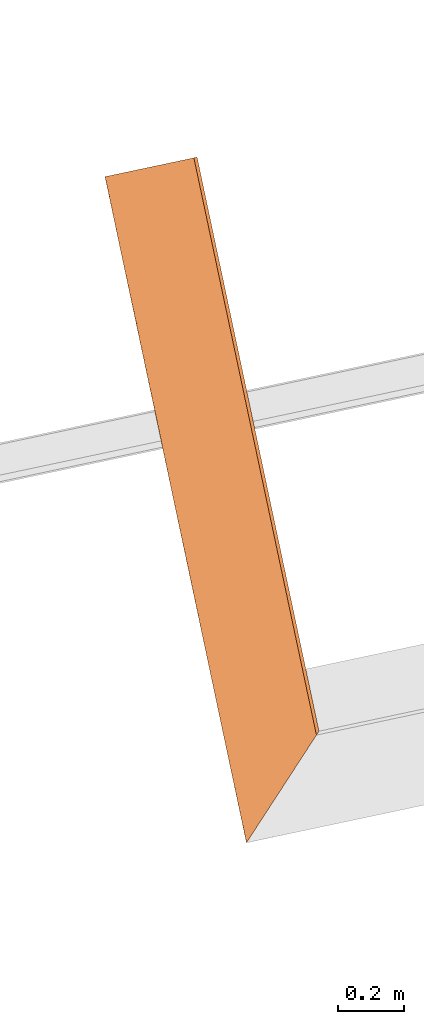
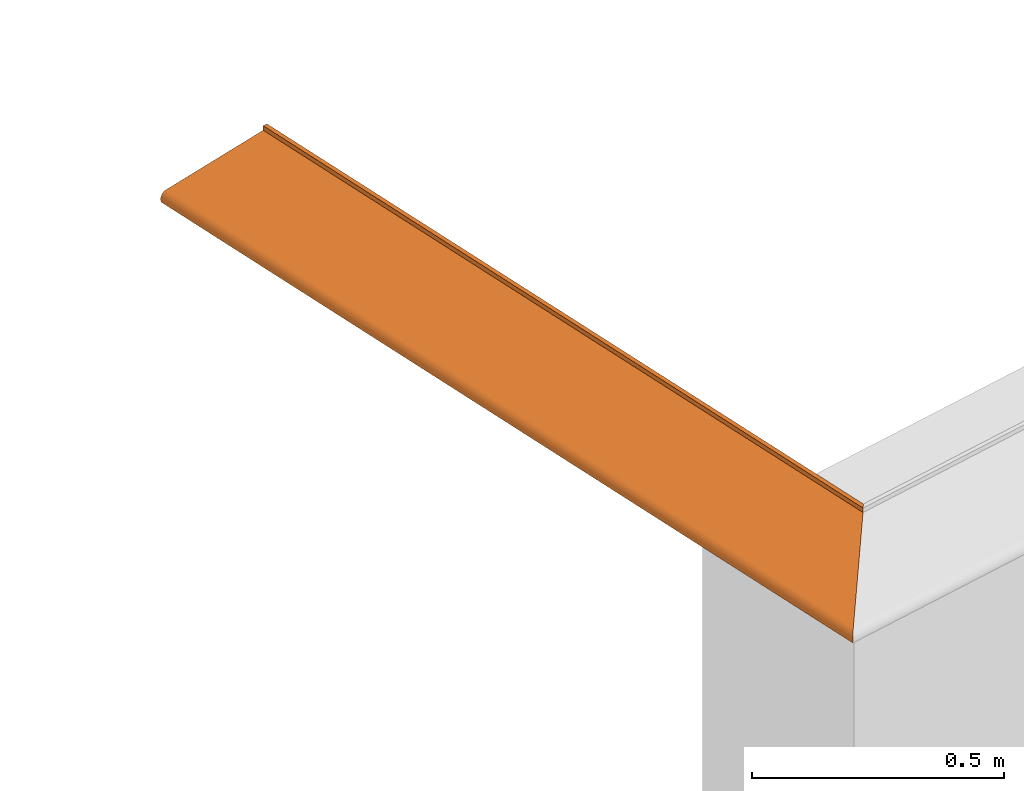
# One storey, part 17 of 22: 1 proxy.
"""IFC2X3 building model written with IfcOpenShell, lengths in centimetres."""

import ifcopenshell
import ifcopenshell.guid

model = None  # the IFC model being written
_history = None  # IfcOwnerHistory: only IFC2X3 demands one
_inside = {}  # id of a spatial element -> (the spatial element, [elements in it])
_under = {}  # id of a project, library or spatial element -> (it, [spatial elements below it])
_declared = {}  # id of a project -> (the project, [libraries it declares])
_typed = {}  # id of a type object -> (the type object, [elements of that type])
_made_of = {}  # id of a material, layer set ... -> (it, [elements and type objects made of it])


def new_model(schema):
    """Start an empty IFC model of exactly this schema.

    Asked for "IFC4X3", IfcOpenShell would pick the latest addendum, in which some entities
    have other attributes; the version numbers below select the first issue.
    IFC2X3 requires an IfcOwnerHistory on every rooted entity: one is made here for all.
    """
    global model, _history
    if schema == "IFC4X3":
        model = ifcopenshell.file(schema_version=(4, 3, 0, 0))
    else:
        model = ifcopenshell.file(schema=schema)
    _inside.clear()
    _under.clear()
    _declared.clear()
    _typed.clear()
    _made_of.clear()
    _history = None
    if model.schema == "IFC2X3":
        org = make("IfcOrganization", Name="unknown")
        user = make(
            "IfcPersonAndOrganization",
            ThePerson=make("IfcPerson", FamilyName="unknown"),
            TheOrganization=org,
        )
        app = make(
            "IfcApplication",
            ApplicationDeveloper=org,
            Version="unknown",
            ApplicationFullName="unknown",
            ApplicationIdentifier="unknown",
        )
        _history = make(
            "IfcOwnerHistory",
            OwningUser=user,
            OwningApplication=app,
            ChangeAction="ADDED",
            CreationDate=0,
        )
    return model


def make(cls, **values):
    """One entity of the class cls with the attributes given. An attribute that is None is left unset."""
    return model.create_entity(
        cls, **{name: value for name, value in values.items() if value is not None}
    )


def entity(cls, *values):
    """Any entity or typed value of the class cls, its attributes in the order of the schema. None: left unset."""
    e = model.create_entity(cls)
    for i, value in enumerate(values):
        if value is not None:
            e[i] = value
    return e


def rooted(cls, **values):
    """An entity with a GlobalId (a new one), such as an element, a storey or a relation."""
    return make(cls, GlobalId=ifcopenshell.guid.new(), OwnerHistory=_history, **values)


def si_unit(unit_type, name, prefix=None):
    """IfcSIUnit, for example si_unit("LENGTHUNIT", "METRE", prefix="MILLI")."""
    return make("IfcSIUnit", UnitType=unit_type, Prefix=prefix, Name=name)


def converted_unit(unit_type, name, factor, base, dimensions=None, offset=None):
    """IfcConversionBasedUnit, such as the inch: factor (a typed value) times the base unit."""
    return make(
        "IfcConversionBasedUnit"
        if offset is None
        else "IfcConversionBasedUnitWithOffset",
        ConversionOffset=offset,
        Dimensions=None
        if dimensions is None
        else entity("IfcDimensionalExponents", *dimensions),
        UnitType=unit_type,
        Name=name,
        ConversionFactor=make(
            "IfcMeasureWithUnit", ValueComponent=factor, UnitComponent=base
        ),
    )


def derived_unit(unit_type, elements):
    """IfcDerivedUnit: a product of units, each with its exponent."""
    return make(
        "IfcDerivedUnit",
        Elements=[
            make("IfcDerivedUnitElement", Unit=unit, Exponent=power)
            for unit, power in elements
        ],
        UnitType=unit_type,
    )


def assignment(units):
    """IfcUnitAssignment: the units of a project."""
    return None if units is None else make("IfcUnitAssignment", Units=units)


def point(xyz):
    """IfcCartesianPoint."""
    return None if xyz is None else make("IfcCartesianPoint", Coordinates=xyz)


def direction(xyz):
    """IfcDirection."""
    return None if xyz is None else make("IfcDirection", DirectionRatios=xyz)


def frame(location, z_axis=None, x_axis=None):
    """IfcAxis2Placement3D, a coordinate frame: its origin and axes. An axis left out is left unset."""
    return make(
        "IfcAxis2Placement3D",
        Location=point(location),
        Axis=direction(z_axis),
        RefDirection=direction(x_axis),
    )


def origin():
    """The frame at (0, 0, 0) with its axes left unset."""
    return frame((0.0, 0.0, 0.0))


def place(relative_to, where):
    """IfcLocalPlacement: puts the frame where relative to a parent placement (None: the world)."""
    return make(
        "IfcLocalPlacement", PlacementRelTo=relative_to, RelativePlacement=where
    )


def context(
    kind, dimensions, precision=None, world=None, true_north=None, identifier=None
):
    """IfcGeometricRepresentationContext, for example the 3D "Model" context."""
    return make(
        "IfcGeometricRepresentationContext",
        ContextIdentifier=identifier,
        ContextType=kind,
        CoordinateSpaceDimension=dimensions,
        Precision=precision,
        WorldCoordinateSystem=world,
        TrueNorth=true_north,
    )


def subcontext(parent, identifier, kind, view, scale=None):
    """IfcGeometricRepresentationSubContext, for example "Body" below "Model"."""
    return make(
        "IfcGeometricRepresentationSubContext",
        ContextIdentifier=identifier,
        ContextType=kind,
        ParentContext=parent,
        TargetScale=scale,
        TargetView=view,
    )


def project(units=None, contexts=None):
    """IfcProject with its units and contexts."""
    return rooted(
        "IfcProject",
        Name="project",
        RepresentationContexts=contexts,
        UnitsInContext=assignment(units),
    )


def spatial(cls, under=None, at=None, **own):
    """A site, building, storey or space (cls), placed at a placement, below another one or the project."""
    s = rooted(cls, ObjectPlacement=at, **own)
    if under is not None:
        _under.setdefault(under.id(), (under, []))[1].append(s)
    return s


def faces_of(points, faces, orient=None, outer=None):
    """IfcFace entities. A face is a list of loops; a loop is a list of indices into points, from 0.

    orient and outer hold one flag for each loop. By default every Orientation is true, the
    first loop of a face is its IfcFaceOuterBound and the others are IfcFaceBound.
    """
    made = []
    for i, loops in enumerate(faces):
        bounds = []
        for j, loop in enumerate(loops):
            is_outer = j == 0 if outer is None else outer[i][j]
            bounds.append(
                make(
                    "IfcFaceOuterBound" if is_outer else "IfcFaceBound",
                    Bound=make("IfcPolyLoop", Polygon=[points[k] for k in loop]),
                    Orientation=True if orient is None else orient[i][j],
                )
            )
        made.append(make("IfcFace", Bounds=bounds))
    return made


def faceted_brep(points, faces, orient=None, outer=None, voids=None):
    """IfcFacetedBrep: a solid bounded by flat faces; with voids (closed shells), ...WithVoids."""
    shared = [point(p) for p in points]
    hull = make("IfcClosedShell", CfsFaces=faces_of(shared, faces, orient, outer))
    if voids is None:
        return make("IfcFacetedBrep", Outer=hull)
    return make(
        "IfcFacetedBrepWithVoids",
        Outer=hull,
        Voids=[
            make(cls, CfsFaces=faces_of(shared, fs, o, b)) for cls, fs, o, b in voids
        ],
    )


def shape(context_of_items, identifier, shape_type, items):
    """IfcShapeRepresentation: the items that make up one representation, for example the "Body"."""
    return make(
        "IfcShapeRepresentation",
        ContextOfItems=context_of_items,
        RepresentationIdentifier=identifier,
        RepresentationType=shape_type,
        Items=items,
    )


def made_of(thing, what):
    """Note that an element or type object is made of a material, layer set ...; save() writes the relation."""
    if what is not None:
        _made_of.setdefault(what.id(), (what, []))[1].append(thing)
    return thing


def type_object(cls, material=None, **own):
    """A type object (cls), such as IfcWallType, which elements share."""
    return made_of(rooted(cls, **own), material)


def element(
    cls,
    number,
    at=None,
    inside=None,
    cuts=None,
    type_object=None,
    material=None,
    context=None,
    identifier="Body",
    shape_type=None,
    held_by="IfcProductDefinitionShape",
    body=None,
    shapes=None,
    **own,
):
    """One element of the class cls, such as IfcWall. Its Tag is "e" and its number.

    at: its placement. inside: the storey or other place that contains it. cuts: it is an
    opening in that element (IfcRelVoidsElement). A single representation is given by context,
    identifier, shape_type and body (its items); several are given by shapes. held_by: the class
    of the entity that holds the representations. save() writes the other relations.
    """
    e = rooted(cls, Tag="e%d" % number, ObjectPlacement=at, **own)
    if body is not None:
        shapes = [shape(context, identifier, shape_type, body)]
    if shapes is not None:
        e.Representation = make(held_by, Representations=shapes)
    if inside is not None:
        _inside.setdefault(inside.id(), (inside, []))[1].append(e)
    if cuts is not None:
        rooted(
            "IfcRelVoidsElement", RelatingBuildingElement=cuts, RelatedOpeningElement=e
        )
    if type_object is not None:
        _typed.setdefault(type_object.id(), (type_object, []))[1].append(e)
    return made_of(e, material)


def aggregate(whole, parts):
    """IfcRelAggregates: a whole, such as a stair, and the parts it consists of."""
    return rooted("IfcRelAggregates", RelatingObject=whole, RelatedObjects=parts)


def save(model, path):
    """Write the relations noted so far, then the file.

    IfcRelAggregates (storeys below a building ...), IfcRelContainedInSpatialStructure (elements
    in a storey), IfcRelDefinesByType, IfcRelAssociatesMaterial and IfcRelDeclares: one each for
    every whole, place, type object, material and project.
    """
    for whole, parts in _under.values():
        aggregate(whole, parts)
    for where, things in _inside.values():
        rooted(
            "IfcRelContainedInSpatialStructure",
            RelatedElements=things,
            RelatingStructure=where,
        )
    for kind, things in _typed.values():
        rooted("IfcRelDefinesByType", RelatedObjects=things, RelatingType=kind)
    for what, things in _made_of.values():
        rooted("IfcRelAssociatesMaterial", RelatedObjects=things, RelatingMaterial=what)
    for by, libraries in _declared.values():
        rooted("IfcRelDeclares", RelatingContext=by, RelatedDefinitions=libraries)
    model.write(path)


model = new_model("IFC2X3")

# Units and contexts
model_context = context("Model", 3, precision=0.001, world=origin(), true_north=direction((6.12303176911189e-17, 1.0)))
body_context = subcontext(model_context, "Body", "Model", "MODEL_VIEW")
ifc_project = project(units=[si_unit("LENGTHUNIT", "METRE", prefix="CENTI"), si_unit("AREAUNIT", "SQUARE_METRE"), si_unit("VOLUMEUNIT", "CUBIC_METRE"), converted_unit("PLANEANGLEUNIT", "DEGREE", entity("IfcRatioMeasure", 0.0174532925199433), si_unit("PLANEANGLEUNIT", "RADIAN"), dimensions=[0, 0, 0, 0, 0, 0, 0]), si_unit("MASSUNIT", "GRAM", prefix="KILO"), derived_unit("MASSDENSITYUNIT", [(si_unit("MASSUNIT", "GRAM", prefix="KILO"), 1), (si_unit("LENGTHUNIT", "METRE"), -3)]), derived_unit("IONCONCENTRATIONUNIT", [(si_unit("MASSUNIT", "GRAM", prefix="KILO"), 1), (si_unit("LENGTHUNIT", "METRE"), -3)]), derived_unit("MOMENTOFINERTIAUNIT", [(si_unit("LENGTHUNIT", "METRE"), 4)]), si_unit("TIMEUNIT", "SECOND"), si_unit("FREQUENCYUNIT", "HERTZ"), si_unit("THERMODYNAMICTEMPERATUREUNIT", "DEGREE_CELSIUS"), derived_unit("THERMALTRANSMITTANCEUNIT", [(si_unit("MASSUNIT", "GRAM", prefix="KILO"), 1), (si_unit("THERMODYNAMICTEMPERATUREUNIT", "KELVIN"), -1), (si_unit("TIMEUNIT", "SECOND"), -3)]), derived_unit("THERMALCONDUCTANCEUNIT", [(si_unit("MASSUNIT", "GRAM", prefix="KILO"), 1), (si_unit("THERMODYNAMICTEMPERATUREUNIT", "KELVIN"), -1), (si_unit("TIMEUNIT", "SECOND"), -3), (si_unit("LENGTHUNIT", "METRE"), 1)]), derived_unit("VOLUMETRICFLOWRATEUNIT", [(si_unit("LENGTHUNIT", "METRE"), 3), (si_unit("TIMEUNIT", "SECOND"), -1)]), derived_unit("MASSFLOWRATEUNIT", [(si_unit("MASSUNIT", "GRAM", prefix="KILO"), 1), (si_unit("TIMEUNIT", "SECOND"), -1)]), derived_unit("ROTATIONALFREQUENCYUNIT", [(si_unit("TIMEUNIT", "SECOND"), -1)]), si_unit("ELECTRICCURRENTUNIT", "AMPERE"), si_unit("ELECTRICVOLTAGEUNIT", "VOLT"), si_unit("POWERUNIT", "WATT"), si_unit("FORCEUNIT", "NEWTON", prefix="KILO"), si_unit("ILLUMINANCEUNIT", "LUX"), si_unit("LUMINOUSFLUXUNIT", "LUMEN"), si_unit("LUMINOUSINTENSITYUNIT", "CANDELA"), derived_unit("USERDEFINED", [(si_unit("MASSUNIT", "GRAM", prefix="KILO"), -1), (si_unit("LENGTHUNIT", "METRE"), -2), (si_unit("TIMEUNIT", "SECOND"), 3), (si_unit("LUMINOUSFLUXUNIT", "LUMEN"), 1)]), derived_unit("USERDEFINED", [(si_unit("MASSUNIT", "GRAM", prefix="KILO"), 1), (si_unit("TIMEUNIT", "SECOND"), -3), (si_unit("LENGTHUNIT", "METRE"), 3), (si_unit("ELECTRICCURRENTUNIT", "AMPERE"), -2)]), derived_unit("SOUNDPOWERUNIT", [(si_unit("MASSUNIT", "GRAM", prefix="KILO"), 1), (si_unit("TIMEUNIT", "SECOND"), -3), (si_unit("LENGTHUNIT", "METRE"), 2)]), derived_unit("SOUNDPRESSUREUNIT", [(si_unit("MASSUNIT", "GRAM", prefix="KILO"), 1), (si_unit("LENGTHUNIT", "METRE"), -1), (si_unit("TIMEUNIT", "SECOND"), -2)]), derived_unit("LINEARVELOCITYUNIT", [(si_unit("LENGTHUNIT", "METRE"), 1), (si_unit("TIMEUNIT", "SECOND"), -1)]), si_unit("PRESSUREUNIT", "PASCAL"), derived_unit("USERDEFINED", [(si_unit("MASSUNIT", "GRAM", prefix="KILO"), 1), (si_unit("LENGTHUNIT", "METRE"), -2), (si_unit("TIMEUNIT", "SECOND"), -2)]), derived_unit("LINEARFORCEUNIT", [(si_unit("MASSUNIT", "GRAM", prefix="KILO"), 1), (si_unit("TIMEUNIT", "SECOND"), -2)]), derived_unit("PLANARFORCEUNIT", [(si_unit("MASSUNIT", "GRAM", prefix="KILO"), 1), (si_unit("LENGTHUNIT", "METRE"), -1), (si_unit("TIMEUNIT", "SECOND"), -2)]), derived_unit("SPECIFICHEATCAPACITYUNIT", [(si_unit("THERMODYNAMICTEMPERATUREUNIT", "KELVIN"), -1), (si_unit("LENGTHUNIT", "METRE"), 2), (si_unit("TIMEUNIT", "SECOND"), -2)]), derived_unit("HEATINGVALUEUNIT", [(si_unit("LENGTHUNIT", "METRE"), 2), (si_unit("TIMEUNIT", "SECOND"), -2)]), derived_unit("VAPORPERMEABILITYUNIT", [(si_unit("LENGTHUNIT", "METRE"), -1), (si_unit("TIMEUNIT", "SECOND"), 1)]), derived_unit("DYNAMICVISCOSITYUNIT", [(si_unit("MASSUNIT", "GRAM", prefix="KILO"), 1), (si_unit("TIMEUNIT", "SECOND"), -1), (si_unit("LENGTHUNIT", "METRE"), -1)]), derived_unit("THERMALEXPANSIONCOEFFICIENTUNIT", [(si_unit("THERMODYNAMICTEMPERATUREUNIT", "KELVIN"), -1)]), derived_unit("MODULUSOFELASTICITYUNIT", [(si_unit("MASSUNIT", "GRAM", prefix="KILO"), 1), (si_unit("LENGTHUNIT", "METRE"), -1), (si_unit("TIMEUNIT", "SECOND"), -2)]), derived_unit("ISOTHERMALMOISTURECAPACITYUNIT", [(si_unit("LENGTHUNIT", "METRE"), 3), (si_unit("MASSUNIT", "GRAM", prefix="KILO"), -1)]), derived_unit("MOISTUREDIFFUSIVITYUNIT", [(si_unit("TIMEUNIT", "SECOND"), -1), (si_unit("LENGTHUNIT", "METRE"), 2)])], contexts=[model_context])

# Site, building, storey
site_placement = place(None, frame((14083.8920177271, -6853.25409548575, 6900.0), z_axis=(0.0, 0.0, 1.0), x_axis=(0.978188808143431, 0.207717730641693, 0.0)))
site = spatial("IfcSite", under=ifc_project, at=site_placement, Name="Surface", CompositionType="ELEMENT")
building_placement = place(site_placement, origin())
building = spatial("IfcBuilding", under=site, at=building_placement, CompositionType="ELEMENT")
storey_placement = place(building_placement, frame((0.0, 0.0, -17.0)))
storey = spatial("IfcBuildingStorey", under=building, at=storey_placement, Name="Rez de chaussée (SD)", CompositionType="ELEMENT", Elevation=-16.9999999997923)

# Proxy
building_element_proxy_type = type_object("IfcBuildingElementProxyType", Name="5100717", PredefinedType="NOTDEFINED")
proxy_placement = place(storey_placement, frame((-6825.74402632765, 14558.8435696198, 75.1437635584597)))
element("IfcBuildingElementProxy", 1, at=proxy_placement, inside=storey, type_object=building_element_proxy_type, Name="5100717", context=body_context, shape_type="Brep", body=[
    faceted_brep([(0.303403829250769, 0.303403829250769, 2.43053632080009), (0.177753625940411, 0.177753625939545, 2.03202478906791), (0.15952722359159, 0.15952722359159, 1.61457154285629), (0.249966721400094, 0.249966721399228, 1.20662533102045), (0.442908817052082, 0.442908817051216, 0.835987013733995), (0.725204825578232, 0.725204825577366, 0.527914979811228), (1.07761674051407, 1.07761674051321, 0.303403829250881), (1.47612827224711, 1.47612827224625, 0.177753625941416), (1.89358151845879, 1.89358151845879, 0.159527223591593), (1.80642577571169, 1.80642577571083, 1.15572192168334), (1.64977644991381, 1.64977644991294, 1.16256137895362), (1.5002350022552, 1.50023500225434, 1.20971161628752), (1.3679924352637, 1.36799243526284, 1.2939594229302), (1.26206086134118, 1.26206086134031, 1.40956345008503), (1.18965934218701, 1.18965934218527, 1.54864547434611), (1.15572192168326, 1.15572192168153, 1.70172728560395), (1.16256137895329, 1.16256137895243, 1.85837661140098), (1.20971161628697, 1.2097116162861, 2.00791805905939), (1.29395942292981, 1.29395942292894, 2.14016062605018), (1.40956345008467, 1.40956345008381, 2.24609219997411), (1.5486454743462, 1.54864547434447, 2.31849371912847), (1.70172728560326, 1.7017272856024, 2.35243113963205), (28.598984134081, 28.5989841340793, 4.70563619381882), (28.598984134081, 28.5989841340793, 6.70563619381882), (27.5989841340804, 27.5989841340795, 6.70563619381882), (27.5989841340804, 27.5989841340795, 5.62196736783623), (1.6145715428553, 1.61457154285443, 3.34862583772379), (1.20662533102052, 1.20662533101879, 3.25818633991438), (0.835987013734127, 0.835987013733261, 3.06524424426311), (0.527914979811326, 0.527914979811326, 2.78294823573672), (0.725204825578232, 205.828908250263, 0.527914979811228), (0.442908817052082, 205.828908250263, 0.835987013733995), (0.249966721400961, 205.828908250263, 1.20662533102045), (0.15952722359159, 205.828908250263, 1.61457154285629), (0.177753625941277, 205.828908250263, 2.03202478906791), (0.303403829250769, 205.828908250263, 2.43053632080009), (0.527914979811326, 205.828908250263, 2.78294823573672), (0.835987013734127, 205.828908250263, 3.06524424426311), (1.20662533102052, 205.828908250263, 3.25818633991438), (1.6145715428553, 205.828908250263, 3.34862583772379), (27.5989841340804, 205.828908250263, 5.62196736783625), (27.5989841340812, 205.828908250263, 6.70563619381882), (28.598984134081, 205.828908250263, 6.70563619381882), (28.598984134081, 205.828908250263, 4.70563619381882), (1.70172728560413, 205.828908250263, 2.35243113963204), (1.5486454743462, 205.828908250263, 2.31849371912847), (1.40956345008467, 205.828908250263, 2.24609219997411), (1.29395942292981, 205.828908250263, 2.14016062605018), (1.20971161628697, 205.828908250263, 2.00791805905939), (1.16256137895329, 205.828908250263, 1.85837661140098), (1.15572192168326, 205.828908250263, 1.70172728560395), (1.18965934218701, 205.828908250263, 1.54864547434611), (1.26206086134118, 205.828908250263, 1.40956345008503), (1.36799243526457, 205.828908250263, 1.2939594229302), (1.50023500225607, 205.828908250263, 1.20971161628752), (1.64977644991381, 205.828908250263, 1.16256137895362), (1.80642577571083, 205.828908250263, 1.15572192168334), (1.89358151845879, 205.828908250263, 0.159527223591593), (1.47612827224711, 205.828908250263, 0.177753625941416), (1.07761674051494, 205.828908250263, 0.303403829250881), (1.70172728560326, 10.2591841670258, 2.352431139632), (1.70172728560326, 18.5036985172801, 2.352431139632), (1.70172728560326, 26.904684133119, 2.35243113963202), (1.70172728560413, 35.3056697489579, 2.35243113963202), (1.70172728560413, 43.706655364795, 2.35243113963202), (1.70172728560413, 52.1076409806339, 2.35243113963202), (1.70172728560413, 60.5086265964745, 2.35243113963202), (1.70172728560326, 68.9096122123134, 2.35243113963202), (1.70172728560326, 77.4670690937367, 2.35243113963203), (1.70172728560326, 86.0245259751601, 2.35243113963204), (1.70172728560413, 94.5819828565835, 2.35243113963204), (1.70172728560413, 103.139435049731, 2.35243113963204), (1.70172728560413, 111.696887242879, 2.35243113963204), (1.70172728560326, 120.254344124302, 2.35243113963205), (1.70172728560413, 128.811801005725, 2.35243113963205), (1.70172728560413, 137.369257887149, 2.35243113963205), (1.70172728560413, 145.926714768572, 2.35243113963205), (1.70172728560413, 154.484171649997, 2.35243113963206), (1.70172728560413, 163.04162853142, 2.35243113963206), (1.70172728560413, 171.599085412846, 2.35243113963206), (1.701727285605, 180.156542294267, 2.35243113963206), (1.70172728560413, 188.713999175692, 2.35243113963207), (1.70172728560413, 197.271456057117, 2.35243113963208), (1.61457154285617, 177.889780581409, 3.34862583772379), (1.61457154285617, 149.950520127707, 3.34862583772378), (1.61457154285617, 135.980889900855, 3.34862583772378), (1.6145715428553, 122.011259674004, 3.34862583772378), (1.6145715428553, 94.0719992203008, 3.34862583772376), (1.61457154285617, 70.9576091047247, 3.34862583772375), (1.61457154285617, 47.8432189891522, 3.34862583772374), (1.61457154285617, 24.7288288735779, 3.34862583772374), (0.672699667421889, 182.92118623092, 2.93419229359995), (0.404110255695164, 186.793562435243, 2.6140998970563), (1.27275473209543, 169.601477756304, 0.227518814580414), (1.58530274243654, 172.642538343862, 0.162359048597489), (1.49362615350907, 152.435528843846, 0.174768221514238), (0.20101520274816, 51.9857090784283, 1.36671410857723), (0.191750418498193, 76.9880739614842, 1.40595837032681), (0.365135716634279, 58.7608583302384, 0.958531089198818), (0.154959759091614, 186.936376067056, 1.82389547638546), (1.31146795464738, 172.642538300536, 3.29230498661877), (1.3437121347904, 189.256705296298, 3.30121912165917), (0.487276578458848, 166.362141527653, 2.73247676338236), (0.404110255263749, 145.930720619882, 2.61409989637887), (0.731319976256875, 148.216260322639, 2.98534342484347), (0.334291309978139, 186.936376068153, 1.0149831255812), (0.340196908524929, 164.242604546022, 1.00374757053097), (0.191377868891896, 183.841431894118, 1.40763457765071), (0.191038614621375, 19.4018335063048, 1.40916841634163), (0.154942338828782, 24.4550501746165, 1.82349533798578), (1.01048520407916, 16.1546357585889, 3.17151121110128), (0.668195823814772, 22.6355221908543, 2.93004941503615), (0.402456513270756, 15.5901183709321, 2.61149851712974), (1.01498312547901, 189.313195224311, 3.17386175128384), (1.01498312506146, 169.60147769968, 3.17386175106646), (1.2779212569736, 25.6981644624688, 3.2822536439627), (1.00497640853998, 34.7234455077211, 3.16860759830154), (1.26472225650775, 24.6541680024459, 0.230074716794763), (0.942996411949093, 126.319645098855, 3.13400340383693), (0.745579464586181, 105.394687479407, 2.9970499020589), (1.17349945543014, 104.439359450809, 3.24571301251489), (1.27275473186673, 189.313195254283, 0.227518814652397), (0.877950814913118, 159.563891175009, 0.414504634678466), (0.573960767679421, 173.183077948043, 0.672699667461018), (0.894053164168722, 184.186032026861, 0.40411025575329), (0.227518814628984, 191.166987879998, 2.2353983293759), (0.191377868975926, 159.362213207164, 1.40763457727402), (0.289741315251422, 138.407000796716, 1.10772406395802), (0.226863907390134, 19.4386523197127, 2.23331628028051), (1.61860498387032, 189.256705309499, 0.159179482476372), (0.998741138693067, 115.310194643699, 0.342865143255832), (0.640730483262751, 116.114245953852, 0.604072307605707), (0.859181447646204, 131.12846694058, 0.426969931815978), (0.573960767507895, 191.279313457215, 0.672699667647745), (0.181540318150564, 81.5362696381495, 2.0527050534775), (0.153642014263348, 79.4114447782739, 1.72841541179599), (0.162647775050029, 66.5351258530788, 1.92555145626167), (0.569941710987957, 23.9220232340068, 0.677102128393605), (1.22333896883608, 152.435528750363, 3.26416486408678), (1.89358151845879, 177.890350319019, 0.159527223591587), (0.883968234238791, 38.4918058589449, 0.410588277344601), (0.566183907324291, 47.0651043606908, 0.681248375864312), (0.339656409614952, 80.9797745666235, 1.00476694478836), (0.56189490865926, 70.9383369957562, 0.686016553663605), (0.332903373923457, 17.5954846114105, 1.01765546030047), (0.225899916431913, 42.4016283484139, 2.23023340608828), (0.287236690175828, 65.3098654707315, 2.39472465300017), (1.06847369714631, 144.865821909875, 0.307702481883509), (1.42899160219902, 80.8501472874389, 0.186795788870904), (1.89358151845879, 75.9226869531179, 0.15952722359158), (1.61007284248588, 55.4045503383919, 0.159927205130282), (0.577194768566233, 126.595351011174, 2.83897212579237), (1.29785051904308, 88.1876404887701, 3.28832128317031), (0.317598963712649, 160.798423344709, 2.46017945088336), (0.202864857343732, 155.802512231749, 2.14878082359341), (0.256292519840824, 140.469800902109, 2.31860482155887), (0.889417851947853, 18.1565469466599, 0.407074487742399), (1.58920554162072, 40.6739204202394, 0.161950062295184), (1.89358151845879, 57.7728312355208, 0.159527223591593), (1.89358151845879, 29.8335620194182, 0.159527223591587), (1.58637294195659, 23.7380030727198, 0.162245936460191), (0.43813656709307, 53.9384822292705, 2.66531258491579), (0.660003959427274, 62.766205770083, 2.92243193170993), (0.437421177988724, 73.5155441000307, 2.66427860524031), (1.28383630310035, 43.555403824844, 3.28408413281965), (0.648377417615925, 42.6849867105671, 2.911434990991), (0.227518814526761, 172.980318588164, 2.23539832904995), (0.155508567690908, 164.285758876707, 1.83549889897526), (1.22848597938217, 39.7471035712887, 0.242189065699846), (0.166545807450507, 36.274263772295, 1.54963745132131), (1.04613912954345, 51.0811627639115, 0.318502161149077), (0.722818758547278, 165.733224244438, 2.97823197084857), (0.331273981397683, 37.9255767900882, 1.02080847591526), (1.27740574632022, 128.996042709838, 3.28209292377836), (0.985183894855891, 54.8111044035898, 3.15794733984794), (0.400436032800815, 34.1924632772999, 2.60830515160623), (0.798833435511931, 56.3817923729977, 0.469724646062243), (1.18496413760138, 100.901820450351, 0.258028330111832), (1.21727551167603, 128.325098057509, 0.246132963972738), (1.89358151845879, 149.951081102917, 0.15952722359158), (1.89358151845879, 135.981446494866, 0.159527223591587), (1.49172996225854, 108.041624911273, 0.175082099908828), (1.56399940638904, 128.99604277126, 0.164762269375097), (1.89358151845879, 122.011811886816, 0.15952722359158), (0.16721300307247, 125.532094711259, 1.5445215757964), (0.158892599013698, 144.04588493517, 1.62202593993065), (0.313799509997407, 123.573992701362, 2.45239682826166), (0.234375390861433, 103.57012172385, 2.25662760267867), (0.429291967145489, 102.373329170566, 2.65240553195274), (0.154923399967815, 51.0184221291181, 1.8230576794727), (0.619495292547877, 155.996358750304, 0.625017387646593), (0.310424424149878, 85.7623623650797, 2.44539247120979), (0.954386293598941, 154.63701391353, 3.14063509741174), (0.606407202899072, 85.0070897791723, 2.86982930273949), (0.178102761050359, 120.129612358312, 2.03399761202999), (0.154886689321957, 102.994217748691, 1.82220131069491), (0.92180332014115, 87.6315309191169, 3.12132575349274), (1.16639369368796, 72.1043772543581, 3.2429277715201), (0.165247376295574, 93.8908392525, 1.55998621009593), (0.286362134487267, 111.901631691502, 1.11543454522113), (0.185201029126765, 108.850636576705, 1.43677731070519), (0.877986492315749, 98.9307920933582, 0.414481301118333), (0.549148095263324, 93.9187915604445, 0.700417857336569), (0.884978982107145, 70.0804229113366, 3.09821885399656), (1.89358151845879, 94.072542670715, 0.159527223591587), (1.05240139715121, 86.9353211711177, 0.315430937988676), (1.3287919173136, 53.9784066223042, 0.210968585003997), (0.968279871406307, 71.8912899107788, 0.359597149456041), (0.160604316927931, 63.5285875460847, 1.60276414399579), (0.234440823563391, 94.2719621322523, 1.25132763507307), (0.364600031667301, 97.702052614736, 0.959467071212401), (0.440996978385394, 112.26690593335, 0.838723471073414), (0.57396076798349, 138.809639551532, 0.672699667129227), (0.169832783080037, 140.288473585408, 1.98259541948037), (1.80642577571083, 197.27145365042, 1.15572192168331), (1.80642577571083, 188.713999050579, 1.15572192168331), (1.80642577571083, 180.326097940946, 1.15572192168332), (1.80642577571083, 173.950393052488, 1.15572192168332), (1.80642577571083, 167.574692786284, 1.15572192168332), (1.80642577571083, 161.198992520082, 1.15572192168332), (1.80642577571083, 154.823287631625, 1.15572192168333), (1.80642577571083, 148.447582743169, 1.15572192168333), (1.80642577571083, 142.071882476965, 1.15572192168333), (1.80642577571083, 135.696182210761, 1.15572192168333), (1.80642577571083, 129.320477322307, 1.15572192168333), (1.80642577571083, 122.94477243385, 1.15572192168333), (1.80642577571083, 116.569072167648, 1.15572192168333), (1.80642577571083, 110.193371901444, 1.15572192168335), (1.80642577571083, 103.817667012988, 1.15572192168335), (1.80642577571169, 97.4419621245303, 1.15572192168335), (1.80642577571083, 91.0662618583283, 1.15572192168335), (1.80642577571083, 84.6905615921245, 1.15572192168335), (1.80642577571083, 78.3148567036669, 1.15572192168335), (1.80642577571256, 71.939151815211, 1.15572192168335), (1.80642577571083, 65.563451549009, 1.15572192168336), (1.80642577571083, 59.187751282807, 1.15572192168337), (1.80642577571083, 52.8120463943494, 1.15572192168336), (1.80642577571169, 44.4241452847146, 1.15572192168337), (1.80642577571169, 36.036248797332, 1.15572192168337), (1.80642577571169, 27.4787895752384, 1.15572192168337), (1.80642577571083, 18.9213349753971, 1.15572192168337), (1.80642577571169, 10.3638803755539, 1.15572192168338), (1.16223213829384, 7.76948157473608, 1.65166121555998), (1.15420975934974, 30.8410940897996, 1.72360460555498), (1.15828916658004, 23.20006706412, 1.67787877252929), (1.15534968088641, 14.3814404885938, 1.7061720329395), (1.15572192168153, 191.989941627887, 1.70172728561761), (1.1557219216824, 184.520046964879, 1.70172728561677), (1.1557219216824, 198.897232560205, 1.70172728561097), (1.15391736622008, 56.3081315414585, 1.73004199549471), (1.1572854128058, 126.132626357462, 1.68618659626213), (1.15623132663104, 177.113382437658, 1.69619912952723), (1.15453787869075, 90.228005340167, 1.79043703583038), (1.16340812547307, 108.450633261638, 1.64508333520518), (1.15839491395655, 48.5744612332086, 1.67705644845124), (1.1578840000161, 41.3059035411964, 1.68111662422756), (1.15730470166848, 150.205443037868, 1.68601725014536), (1.15782340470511, 100.629816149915, 1.68161349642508), (1.15835791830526, 75.1270059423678, 1.67734311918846), (1.15408681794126, 63.4983000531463, 1.72612968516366), (1.16389747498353, 82.9113122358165, 1.64246396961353), (1.16291610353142, 133.991029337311, 1.64778433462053), (1.15497928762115, 167.320355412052, 1.79710181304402), (1.15492721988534, 157.495301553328, 1.71178250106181), (1.15412224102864, 115.72366799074, 1.78277377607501), (1.15382166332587, 141.222518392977, 1.77558875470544)], [[[0, 1, 2, 3, 4, 5, 6, 7, 8, 9, 10, 11, 12, 13, 14, 15, 16, 17, 18, 19, 20, 21, 22, 23, 24, 25, 26, 27, 28, 29]], [[30, 31, 32, 33, 34, 35, 36, 37, 38, 39, 40, 41, 42, 43, 44, 45, 46, 47, 48, 49, 50, 51, 52, 53, 54, 55, 56, 57, 58, 59]], [[22, 21, 60, 61, 62, 63, 64, 65, 66, 67, 68, 69, 70, 71, 72, 73, 74, 75, 76, 77, 78, 79, 80, 81, 82, 44, 43]], [[25, 40, 39, 83, 84, 85, 86, 87, 88, 89, 90, 26]], [[91, 36, 92]], [[93, 94, 95]], [[96, 97, 98]], [[99, 34, 33]], [[100, 83, 101]], [[102, 103, 104]], [[91, 37, 36]], [[105, 106, 107]], [[108, 2, 109]], [[28, 110, 111]], [[112, 0, 29]], [[113, 91, 114]], [[115, 116, 110]], [[113, 38, 37]], [[117, 7, 6]], [[26, 90, 115]], [[118, 119, 120]], [[111, 29, 28]], [[110, 28, 27]], [[58, 121, 59]], [[109, 2, 1]], [[32, 105, 107]], [[91, 92, 102]], [[122, 123, 124]], [[34, 125, 35]], [[126, 106, 127]], [[1, 0, 128]], [[121, 129, 94]], [[130, 131, 132]], [[128, 109, 1]], [[101, 38, 113]], [[31, 30, 133]], [[134, 135, 136]], [[4, 137, 5]], [[84, 100, 138]], [[108, 3, 2]], [[57, 139, 129]], [[140, 137, 141]], [[98, 142, 143]], [[3, 144, 4]], [[136, 145, 146]], [[147, 132, 122]], [[123, 133, 124]], [[137, 4, 144]], [[148, 149, 150]], [[107, 33, 32]], [[151, 119, 118]], [[120, 152, 87]], [[153, 154, 155]], [[5, 156, 6]], [[157, 158, 159]], [[8, 7, 160]], [[161, 162, 163]], [[109, 128, 145]], [[116, 115, 164]], [[162, 161, 165]], [[30, 59, 124]], [[106, 126, 107]], [[99, 33, 107]], [[166, 99, 167]], [[6, 156, 117]], [[157, 117, 168]], [[169, 108, 109]], [[170, 168, 140]], [[160, 117, 157]], [[36, 35, 92]], [[38, 101, 39]], [[102, 104, 171]], [[141, 137, 172]], [[156, 137, 140]], [[32, 31, 105]], [[121, 94, 93]], [[167, 99, 107]], [[104, 151, 118]], [[173, 120, 86]], [[116, 174, 165]], [[90, 164, 115]], [[112, 111, 175]], [[176, 140, 141]], [[177, 130, 178]], [[121, 124, 59]], [[122, 124, 93]], [[95, 179, 180]], [[181, 182, 183]], [[127, 184, 185]], [[186, 187, 188]], [[112, 128, 0]], [[145, 128, 175]], [[169, 189, 96]], [[144, 108, 172]], [[125, 92, 35]], [[102, 153, 103]], [[93, 95, 147]], [[190, 123, 122]], [[133, 105, 31]], [[105, 123, 106]], [[167, 107, 126]], [[125, 99, 166]], [[188, 151, 186]], [[134, 146, 191]], [[153, 92, 166]], [[151, 104, 103]], [[192, 118, 138]], [[102, 171, 91]], [[108, 144, 3]], [[137, 144, 172]], [[137, 156, 5]], [[117, 156, 140]], [[191, 163, 193]], [[191, 188, 187]], [[186, 151, 103]], [[119, 151, 188]], [[155, 103, 153]], [[187, 194, 195]], [[188, 193, 119]], [[120, 119, 196]], [[119, 193, 196]], [[85, 173, 86]], [[164, 174, 116]], [[197, 88, 152]], [[120, 87, 86]], [[186, 155, 194]], [[187, 195, 134]], [[195, 198, 135]], [[146, 134, 136]], [[184, 199, 200]], [[98, 143, 141]], [[184, 127, 199]], [[131, 201, 202]], [[193, 188, 191]], [[162, 174, 203]], [[203, 193, 162]], [[196, 197, 152]], [[91, 113, 37]], [[100, 101, 113]], [[129, 121, 58]], [[124, 121, 93]], [[100, 113, 114]], [[39, 101, 83]], [[57, 129, 58]], [[129, 139, 94]], [[138, 100, 114]], [[84, 83, 100]], [[192, 138, 114]], [[138, 85, 84]], [[139, 179, 94]], [[95, 94, 179]], [[182, 180, 183]], [[147, 178, 132]], [[204, 148, 181]], [[181, 183, 204]], [[201, 177, 205]], [[130, 177, 201]], [[142, 202, 143]], [[149, 158, 150]], [[148, 206, 207]], [[176, 170, 140]], [[207, 143, 202]], [[134, 191, 187]], [[191, 146, 163]], [[98, 141, 172]], [[176, 143, 207]], [[96, 98, 172]], [[142, 98, 97]], [[169, 172, 108]], [[189, 136, 208]], [[97, 209, 142]], [[202, 201, 207]], [[210, 142, 209]], [[211, 212, 131]], [[202, 210, 211]], [[132, 131, 212]], [[132, 212, 190]], [[130, 132, 178]], [[145, 175, 161]], [[109, 145, 189]], [[190, 106, 123]], [[212, 211, 127]], [[212, 127, 106]], [[200, 199, 209]], [[194, 184, 195]], [[185, 184, 213]], [[186, 194, 187]], [[184, 194, 213]], [[173, 138, 118]], [[138, 173, 85]], [[120, 173, 118]], [[182, 181, 178]], [[180, 182, 95]], [[95, 182, 178]], [[93, 147, 122]], [[95, 178, 147]], [[185, 167, 126]], [[154, 167, 213]], [[111, 112, 29]], [[128, 112, 175]], [[27, 26, 115]], [[111, 110, 116]], [[27, 115, 110]], [[164, 90, 89, 88]], [[171, 192, 114]], [[174, 164, 197]], [[203, 174, 197]], [[165, 174, 162]], [[161, 163, 146]], [[162, 193, 163]], [[145, 161, 146]], [[165, 175, 111]], [[175, 165, 161]], [[116, 165, 111]], [[200, 198, 195]], [[210, 209, 199]], [[198, 200, 209]], [[195, 184, 200]], [[209, 97, 198]], [[135, 198, 97]], [[96, 189, 208]], [[195, 135, 134]], [[208, 135, 97]], [[136, 189, 145]], [[135, 208, 136]], [[97, 96, 208]], [[211, 210, 199]], [[142, 210, 202]], [[211, 199, 127]], [[202, 211, 131]], [[177, 178, 181]], [[131, 130, 201]], [[181, 148, 177]], [[205, 148, 207]], [[148, 205, 177]], [[207, 201, 205]], [[124, 133, 30]], [[105, 133, 123]], [[99, 125, 34]], [[92, 125, 166]], [[189, 169, 109]], [[172, 169, 96]], [[197, 196, 203]], [[193, 203, 196]], [[192, 171, 104]], [[114, 91, 171]], [[143, 176, 141]], [[170, 207, 206]], [[207, 170, 176]], [[168, 170, 206]], [[157, 168, 206]], [[140, 168, 117]], [[150, 157, 206]], [[157, 159, 160]], [[8, 160, 159]], [[7, 117, 160]], [[92, 153, 102]], [[154, 153, 166]], [[167, 154, 166]], [[154, 213, 155]], [[194, 155, 213]], [[186, 103, 155]], [[132, 190, 122]], [[106, 190, 212]], [[196, 152, 120]], [[164, 88, 197]], [[87, 152, 88]], [[118, 192, 104]], [[148, 204, 149]], [[167, 185, 213]], [[127, 185, 126]], [[148, 150, 206]], [[158, 157, 150]], [[8, 159, 158, 149, 204, 183, 180, 179, 139, 57, 56, 214, 215, 216, 217, 218, 219, 220, 221, 222, 223, 224, 225, 226, 227, 228, 229, 230, 231, 232, 233, 234, 235, 236, 237, 238, 239, 240, 241, 9]], [[19, 18, 242]], [[18, 17, 242]], [[45, 44, 82]], [[60, 21, 20]], [[243, 244, 239]], [[60, 20, 19]], [[245, 60, 242]], [[244, 62, 61]], [[19, 242, 60]], [[246, 247, 216, 215, 214, 248]], [[245, 240, 244]], [[66, 65, 249]], [[14, 242, 15]], [[49, 48, 248]], [[224, 250, 225]], [[247, 251, 216]], [[230, 229, 252, 231]], [[71, 253, 72]], [[236, 254, 237]], [[251, 247, 80]], [[52, 248, 53]], [[248, 52, 51]], [[241, 240, 245]], [[242, 14, 13]], [[16, 242, 17]], [[244, 61, 245]], [[237, 254, 255]], [[77, 76, 256]], [[253, 257, 228]], [[232, 258, 233]], [[45, 82, 46]], [[11, 10, 242]], [[10, 9, 241]], [[214, 56, 55]], [[46, 248, 47]], [[54, 214, 55]], [[11, 242, 12]], [[248, 214, 54]], [[248, 48, 47]], [[248, 54, 53]], [[259, 233, 258]], [[258, 260, 68]], [[13, 12, 242]], [[217, 216, 251]], [[60, 245, 61]], [[238, 243, 239]], [[250, 261, 74]], [[49, 248, 50]], [[249, 235, 259]], [[239, 244, 240]], [[62, 244, 243]], [[243, 63, 62]], [[255, 63, 243]], [[81, 80, 247, 246, 248, 82]], [[241, 242, 10]], [[15, 242, 16]], [[245, 242, 241]], [[262, 217, 251]], [[262, 219, 218, 217]], [[256, 220, 263]], [[251, 80, 79]], [[259, 66, 249]], [[255, 238, 237]], [[65, 254, 249]], [[249, 254, 236]], [[63, 255, 64]], [[254, 64, 255]], [[254, 65, 64]], [[243, 238, 255]], [[259, 67, 66]], [[259, 258, 67]], [[68, 67, 258]], [[233, 259, 235, 234]], [[69, 68, 260]], [[260, 252, 69]], [[70, 252, 257]], [[260, 258, 232]], [[260, 231, 252]], [[226, 225, 264, 227]], [[252, 70, 69]], [[71, 70, 257]], [[228, 257, 229]], [[252, 229, 257]], [[222, 221, 265, 223]], [[71, 257, 253]], [[72, 253, 264]], [[253, 227, 264]], [[264, 73, 72]], [[264, 250, 73]], [[74, 73, 250]], [[264, 225, 250]], [[75, 74, 261]], [[261, 265, 75]], [[263, 77, 256]], [[261, 250, 224]], [[261, 223, 265]], [[82, 248, 46]], [[256, 265, 221]], [[265, 76, 75]], [[76, 265, 256]], [[262, 79, 78]], [[263, 219, 262]], [[78, 77, 263]], [[262, 78, 263]], [[263, 220, 219]], [[79, 262, 251]], [[249, 236, 235]], [[260, 232, 231]], [[253, 228, 227]], [[261, 224, 223]], [[50, 248, 51]], [[221, 220, 256]], [[23, 22, 43, 42]], [[24, 23, 42, 41]], [[25, 24, 41, 40]]]),
])

save(model, "model.ifc")
